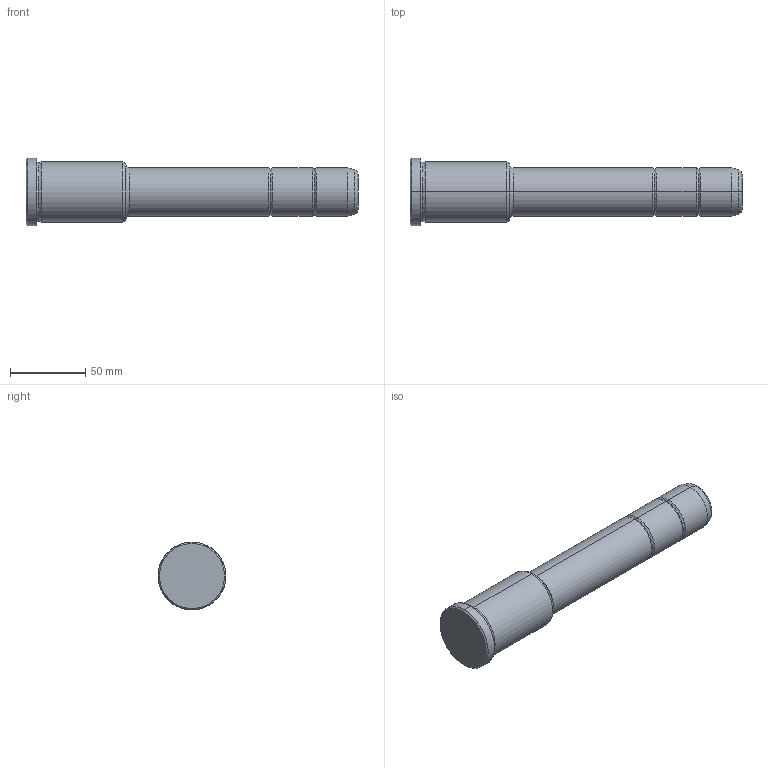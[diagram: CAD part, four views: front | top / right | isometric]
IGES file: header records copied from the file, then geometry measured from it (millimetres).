
Start section: START RECORD GO HERE.
Global section: file name: 351-32X66X220.igs; native system: DASSAULT SYSTEMES CATIA V5 R20 - www.3ds.com; preprocessor: CATIA Version 5 Release 20 ; author: Utente; organization: NB04-ASUS; date: 20210907.142731; units: millimetre
Bounding box: 220 x 45 x 45 mm (x, y, z)
Surface area: 26637.1 mm2 (no closed solid volume)
Topology: 0 solids, 0 shells, 36 faces, 204 edges, 204 vertices
Faces by surface type: revolution 32, plane 4
